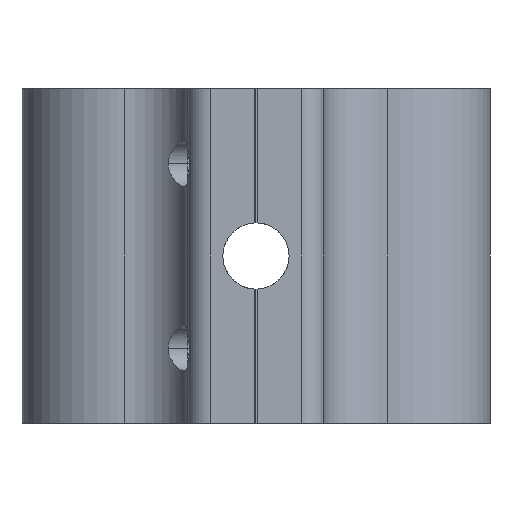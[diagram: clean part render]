
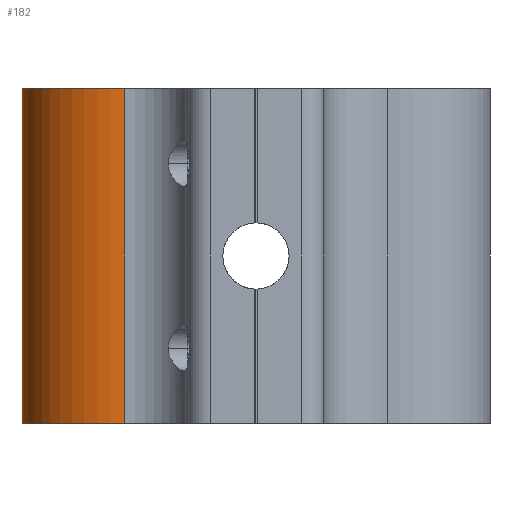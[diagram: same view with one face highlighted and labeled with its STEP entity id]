
A CAD part, left-side view. The second image highlights one B-rep face of the part: STEP entity #182.
In plain terms, the highlighted cylindrical face has radius 13 mm (diameter 26 mm), a partial arc.
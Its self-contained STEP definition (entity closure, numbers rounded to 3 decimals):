
#182=ADVANCED_FACE('',(#526),#5304,.T.);
#526=FACE_OUTER_BOUND('',#870,.T.);
#870=EDGE_LOOP('',(#1302,#1303,#1304,#1305));
#1302=ORIENTED_EDGE('',*,*,#2959,.T.);
#1303=ORIENTED_EDGE('',*,*,#2960,.T.);
#1304=ORIENTED_EDGE('',*,*,#2961,.F.);
#1305=ORIENTED_EDGE('',*,*,#2958,.F.);
#2958=EDGE_CURVE('',#4614,#4615,#4052,.T.);
#2959=EDGE_CURVE('',#4614,#4616,#4053,.T.);
#2960=EDGE_CURVE('',#4616,#4617,#4054,.T.);
#2961=EDGE_CURVE('',#4615,#4617,#4055,.T.);
#4052=(
BOUNDED_CURVE()
B_SPLINE_CURVE(1,(#6126,#6127),.UNSPECIFIED.,.F.,.F.)
B_SPLINE_CURVE_WITH_KNOTS((2,2),(0.,44.5),.UNSPECIFIED.)
CURVE()
GEOMETRIC_REPRESENTATION_ITEM()
RATIONAL_B_SPLINE_CURVE((1.,1.))
REPRESENTATION_ITEM('')
);
#4053=(
BOUNDED_CURVE()
B_SPLINE_CURVE(2,(#6128,#6129,#6130,#6131,#6132,#6133,#6134,#6135,#6136),
 .UNSPECIFIED.,.F.,.F.)
B_SPLINE_CURVE_WITH_KNOTS((3,2,2,2,3),(-327.915,-321.527,
-315.139,-308.751,-302.363),.UNSPECIFIED.)
CURVE()
GEOMETRIC_REPRESENTATION_ITEM()
RATIONAL_B_SPLINE_CURVE((1.,0.921,1.,0.921,1.,0.921,
1.,0.921,1.))
REPRESENTATION_ITEM('')
);
#4054=(
BOUNDED_CURVE()
B_SPLINE_CURVE(1,(#6137,#6138),.UNSPECIFIED.,.F.,.F.)
B_SPLINE_CURVE_WITH_KNOTS((2,2),(0.,44.5),.UNSPECIFIED.)
CURVE()
GEOMETRIC_REPRESENTATION_ITEM()
RATIONAL_B_SPLINE_CURVE((1.,1.))
REPRESENTATION_ITEM('')
);
#4055=(
BOUNDED_CURVE()
B_SPLINE_CURVE(2,(#6139,#6140,#6141,#6142,#6143,#6144,#6145,#6146,#6147),
 .UNSPECIFIED.,.F.,.F.)
B_SPLINE_CURVE_WITH_KNOTS((3,2,2,2,3),(-327.915,-321.527,
-315.139,-308.751,-302.363),.UNSPECIFIED.)
CURVE()
GEOMETRIC_REPRESENTATION_ITEM()
RATIONAL_B_SPLINE_CURVE((1.,0.921,1.,0.921,1.,0.921,
1.,0.921,1.))
REPRESENTATION_ITEM('')
);
#4614=VERTEX_POINT('',#6058);
#4615=VERTEX_POINT('',#6059);
#4616=VERTEX_POINT('',#6060);
#4617=VERTEX_POINT('',#6061);
#5304=CYLINDRICAL_SURFACE('',#5497,13.);
#5497=AXIS2_PLACEMENT_3D('',#6021,#5759,$);
#5759=DIRECTION('',(0.,0.,1.));
#6021=CARTESIAN_POINT('',(-88.514,18.1,118.599));
#6058=CARTESIAN_POINT('',(-75.514,18.1,96.349));
#6059=CARTESIAN_POINT('',(-75.514,18.1,140.849));
#6060=CARTESIAN_POINT('',(-101.496,17.419,96.349));
#6061=CARTESIAN_POINT('',(-101.496,17.419,140.849));
#6126=CARTESIAN_POINT('',(-75.514,18.1,96.349));
#6127=CARTESIAN_POINT('',(-75.514,18.1,140.849));
#6128=CARTESIAN_POINT('',(-75.514,18.1,96.349));
#6129=CARTESIAN_POINT('',(-75.514,23.585,96.349));
#6130=CARTESIAN_POINT('',(-79.442,27.412,96.349));
#6131=CARTESIAN_POINT('',(-83.371,31.239,96.349));
#6132=CARTESIAN_POINT('',(-88.854,31.096,96.349));
#6133=CARTESIAN_POINT('',(-94.337,30.952,96.349));
#6134=CARTESIAN_POINT('',(-98.06,26.924,96.349));
#6135=CARTESIAN_POINT('',(-101.783,22.896,96.349));
#6136=CARTESIAN_POINT('',(-101.496,17.419,96.349));
#6137=CARTESIAN_POINT('',(-101.496,17.419,96.349));
#6138=CARTESIAN_POINT('',(-101.496,17.419,140.849));
#6139=CARTESIAN_POINT('',(-75.514,18.1,140.849));
#6140=CARTESIAN_POINT('',(-75.514,23.585,140.849));
#6141=CARTESIAN_POINT('',(-79.442,27.412,140.849));
#6142=CARTESIAN_POINT('',(-83.371,31.239,140.849));
#6143=CARTESIAN_POINT('',(-88.854,31.096,140.849));
#6144=CARTESIAN_POINT('',(-94.337,30.952,140.849));
#6145=CARTESIAN_POINT('',(-98.06,26.924,140.849));
#6146=CARTESIAN_POINT('',(-101.783,22.896,140.849));
#6147=CARTESIAN_POINT('',(-101.496,17.419,140.849));
